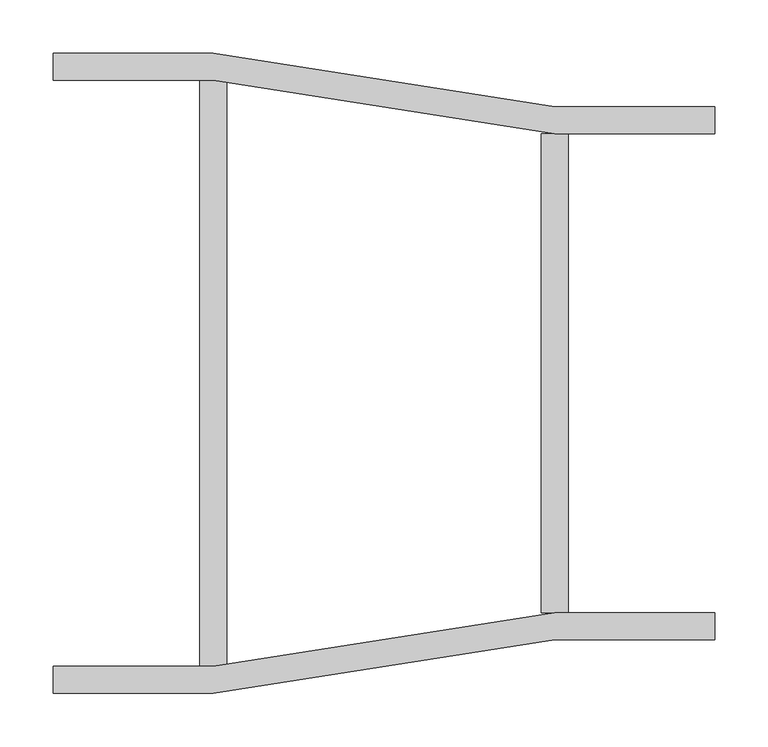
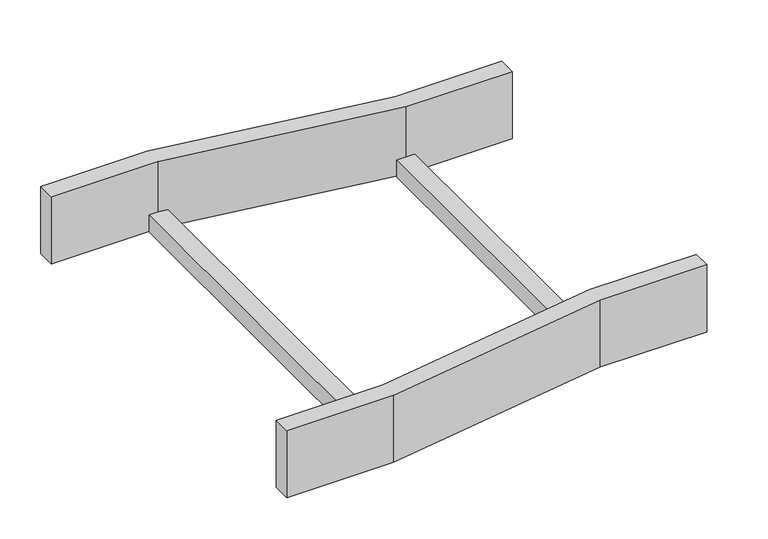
"""IFC4 building model written with IfcOpenShell, lengths in millimetres: cable carrier fitting geometry, BAKS_LD_RED_Straight reducer_RDSV : RDSVP_H100."""

import ifcopenshell
import ifcopenshell.guid

model = None  # the IFC model being written
_history = None  # IfcOwnerHistory: only IFC2X3 demands one
_inside = {}  # id of a spatial element -> (the spatial element, [elements in it])
_under = {}  # id of a project, library or spatial element -> (it, [spatial elements below it])
_declared = {}  # id of a project -> (the project, [libraries it declares])
_typed = {}  # id of a type object -> (the type object, [elements of that type])
_made_of = {}  # id of a material, layer set ... -> (it, [elements and type objects made of it])


def new_model(schema):
    """Start an empty IFC model of exactly this schema.

    Asked for "IFC4X3", IfcOpenShell would pick the latest addendum, in which some entities
    have other attributes; the version numbers below select the first issue.
    IFC2X3 requires an IfcOwnerHistory on every rooted entity: one is made here for all.
    """
    global model, _history
    if schema == "IFC4X3":
        model = ifcopenshell.file(schema_version=(4, 3, 0, 0))
    else:
        model = ifcopenshell.file(schema=schema)
    _inside.clear()
    _under.clear()
    _declared.clear()
    _typed.clear()
    _made_of.clear()
    _history = None
    if model.schema == "IFC2X3":
        org = make("IfcOrganization", Name="unknown")
        user = make(
            "IfcPersonAndOrganization",
            ThePerson=make("IfcPerson", FamilyName="unknown"),
            TheOrganization=org,
        )
        app = make(
            "IfcApplication",
            ApplicationDeveloper=org,
            Version="unknown",
            ApplicationFullName="unknown",
            ApplicationIdentifier="unknown",
        )
        _history = make(
            "IfcOwnerHistory",
            OwningUser=user,
            OwningApplication=app,
            ChangeAction="ADDED",
            CreationDate=0,
        )
    return model


def make(cls, **values):
    """One entity of the class cls with the attributes given. An attribute that is None is left unset."""
    return model.create_entity(
        cls, **{name: value for name, value in values.items() if value is not None}
    )


def rooted(cls, **values):
    """An entity with a GlobalId (a new one), such as an element, a storey or a relation."""
    return make(cls, GlobalId=ifcopenshell.guid.new(), OwnerHistory=_history, **values)


def si_unit(unit_type, name, prefix=None):
    """IfcSIUnit, for example si_unit("LENGTHUNIT", "METRE", prefix="MILLI")."""
    return make("IfcSIUnit", UnitType=unit_type, Prefix=prefix, Name=name)


def assignment(units):
    """IfcUnitAssignment: the units of a project."""
    return None if units is None else make("IfcUnitAssignment", Units=units)


def point(xyz):
    """IfcCartesianPoint."""
    return None if xyz is None else make("IfcCartesianPoint", Coordinates=xyz)


def direction(xyz):
    """IfcDirection."""
    return None if xyz is None else make("IfcDirection", DirectionRatios=xyz)


def frame(location, z_axis=None, x_axis=None):
    """IfcAxis2Placement3D, a coordinate frame: its origin and axes. An axis left out is left unset."""
    return make(
        "IfcAxis2Placement3D",
        Location=point(location),
        Axis=direction(z_axis),
        RefDirection=direction(x_axis),
    )


def origin():
    """The frame at (0, 0, 0) with its axes left unset."""
    return frame((0.0, 0.0, 0.0))


def place(relative_to, where):
    """IfcLocalPlacement: puts the frame where relative to a parent placement (None: the world)."""
    return make(
        "IfcLocalPlacement", PlacementRelTo=relative_to, RelativePlacement=where
    )


def context(
    kind, dimensions, precision=None, world=None, true_north=None, identifier=None
):
    """IfcGeometricRepresentationContext, for example the 3D "Model" context."""
    return make(
        "IfcGeometricRepresentationContext",
        ContextIdentifier=identifier,
        ContextType=kind,
        CoordinateSpaceDimension=dimensions,
        Precision=precision,
        WorldCoordinateSystem=world,
        TrueNorth=true_north,
    )


def project(units=None, contexts=None):
    """IfcProject with its units and contexts."""
    return rooted(
        "IfcProject",
        Name="project",
        RepresentationContexts=contexts,
        UnitsInContext=assignment(units),
    )


def spatial(cls, under=None, at=None, **own):
    """A site, building, storey or space (cls), placed at a placement, below another one or the project."""
    s = rooted(cls, ObjectPlacement=at, **own)
    if under is not None:
        _under.setdefault(under.id(), (under, []))[1].append(s)
    return s


def polyline(points):
    """IfcPolyline through the points."""
    return make("IfcPolyline", Points=[point(p) for p in points])


def outline(outer, holes=None, kind="AREA"):
    """IfcArbitraryClosedProfileDef: a profile drawn as a closed curve; with holes, ...WithVoids."""
    if holes is None:
        return make("IfcArbitraryClosedProfileDef", ProfileType=kind, OuterCurve=outer)
    return make(
        "IfcArbitraryProfileDefWithVoids",
        ProfileType=kind,
        OuterCurve=outer,
        InnerCurves=holes,
    )


def extrude(swept, where, along, depth):
    """IfcExtrudedAreaSolid: the profile swept, set in the frame where, extruded along a direction by depth."""
    return make(
        "IfcExtrudedAreaSolid",
        SweptArea=swept,
        Position=where,
        ExtrudedDirection=direction(along),
        Depth=depth,
    )


def shape(context_of_items, identifier, shape_type, items):
    """IfcShapeRepresentation: the items that make up one representation, for example the "Body"."""
    return make(
        "IfcShapeRepresentation",
        ContextOfItems=context_of_items,
        RepresentationIdentifier=identifier,
        RepresentationType=shape_type,
        Items=items,
    )


def source(mapping_origin, context_of_items, identifier, shape_type, items):
    """IfcRepresentationMap: a shape defined once, which mapped items show again and again."""
    return make(
        "IfcRepresentationMap",
        MappingOrigin=mapping_origin,
        MappedRepresentation=shape(context_of_items, identifier, shape_type, items),
    )


def transform(
    local_origin,
    x_axis=None,
    y_axis=None,
    z_axis=None,
    scale=None,
    scale2=None,
    scale3=None,
    uniform=True,
):
    """IfcCartesianTransformationOperator3D, or its non-uniform kind. x_axis, y_axis, z_axis: its Axis1, 2, 3."""
    if uniform:
        return make(
            "IfcCartesianTransformationOperator3D",
            Axis1=direction(x_axis),
            Axis2=direction(y_axis),
            LocalOrigin=point(local_origin),
            Scale=scale,
            Axis3=direction(z_axis),
        )
    return make(
        "IfcCartesianTransformationOperator3DnonUniform",
        Axis1=direction(x_axis),
        Axis2=direction(y_axis),
        LocalOrigin=point(local_origin),
        Scale=scale,
        Axis3=direction(z_axis),
        Scale2=scale2,
        Scale3=scale3,
    )


def mapped(mapping_source, mapping_target):
    """IfcMappedItem: shows the shape of a source again, moved by a transform."""
    return make(
        "IfcMappedItem", MappingSource=mapping_source, MappingTarget=mapping_target
    )


def made_of(thing, what):
    """Note that an element or type object is made of a material, layer set ...; save() writes the relation."""
    if what is not None:
        _made_of.setdefault(what.id(), (what, []))[1].append(thing)
    return thing


def element(
    cls,
    number,
    at=None,
    inside=None,
    cuts=None,
    type_object=None,
    material=None,
    context=None,
    identifier="Body",
    shape_type=None,
    held_by="IfcProductDefinitionShape",
    body=None,
    shapes=None,
    **own,
):
    """One element of the class cls, such as IfcWall. Its Tag is "e" and its number.

    at: its placement. inside: the storey or other place that contains it. cuts: it is an
    opening in that element (IfcRelVoidsElement). A single representation is given by context,
    identifier, shape_type and body (its items); several are given by shapes. held_by: the class
    of the entity that holds the representations. save() writes the other relations.
    """
    e = rooted(cls, Tag="e%d" % number, ObjectPlacement=at, **own)
    if body is not None:
        shapes = [shape(context, identifier, shape_type, body)]
    if shapes is not None:
        e.Representation = make(held_by, Representations=shapes)
    if inside is not None:
        _inside.setdefault(inside.id(), (inside, []))[1].append(e)
    if cuts is not None:
        rooted(
            "IfcRelVoidsElement", RelatingBuildingElement=cuts, RelatedOpeningElement=e
        )
    if type_object is not None:
        _typed.setdefault(type_object.id(), (type_object, []))[1].append(e)
    return made_of(e, material)


def aggregate(whole, parts):
    """IfcRelAggregates: a whole, such as a stair, and the parts it consists of."""
    return rooted("IfcRelAggregates", RelatingObject=whole, RelatedObjects=parts)


def save(model, path):
    """Write the relations noted so far, then the file.

    IfcRelAggregates (storeys below a building ...), IfcRelContainedInSpatialStructure (elements
    in a storey), IfcRelDefinesByType, IfcRelAssociatesMaterial and IfcRelDeclares: one each for
    every whole, place, type object, material and project.
    """
    for whole, parts in _under.values():
        aggregate(whole, parts)
    for where, things in _inside.values():
        rooted(
            "IfcRelContainedInSpatialStructure",
            RelatedElements=things,
            RelatingStructure=where,
        )
    for kind, things in _typed.values():
        rooted("IfcRelDefinesByType", RelatedObjects=things, RelatingType=kind)
    for what, things in _made_of.values():
        rooted("IfcRelAssociatesMaterial", RelatedObjects=things, RelatingMaterial=what)
    for by, libraries in _declared.values():
        rooted("IfcRelDeclares", RelatingContext=by, RelatedDefinitions=libraries)
    model.write(path)


def cable_carrier_fitting_d3670504(model_context):
    return source(origin(), model_context, "Body", "SweptSolid", [
        extrude(outline(polyline([(0.0, -300.0), (0.0, -274.6), (150.0, -274.6), (470.0, -224.6), (620.0, -224.6), (620.0, -250.0), (470.0, -250.0), (150.0, -300.0), (0.0, -300.0)])), frame((0.0, 0.0, -50.0), z_axis=(0.0, 0.0, 1.0), x_axis=(1.0, 0.0, 0.0)), (0.0, 0.0, 1.0), 100.0),
        extrude(outline(polyline([(0.0, 274.6), (0.0, 300.0), (150.0, 300.0), (470.0, 250.0), (620.0, 250.0), (620.0, 224.6), (470.0, 224.6), (150.0, 274.6), (0.0, 274.6)])), frame((0.0, 0.0, -50.0), z_axis=(0.0, 0.0, 1.0), x_axis=(1.0, 0.0, 0.0)), (0.0, 0.0, 1.0), 100.0),
        extrude(outline(polyline([(457.3, 224.6), (482.7, 224.6), (482.7, -224.6), (457.3, -224.6), (457.3, 224.6)])), frame((0.0, 0.0, -50.0), z_axis=(0.0, 0.0, 1.0), x_axis=(1.0, 0.0, 0.0)), (0.0, 0.0, 1.0), 25.4),
        extrude(outline(polyline([(137.3, 274.6), (162.7, 274.6), (162.7, -274.6), (137.3, -274.6), (137.3, 274.6)])), frame((0.0, 0.0, -50.0), z_axis=(0.0, 0.0, 1.0), x_axis=(1.0, 0.0, 0.0)), (0.0, 0.0, 1.0), 25.4),
    ])


if __name__ == "__main__":
    model = new_model("IFC4")
    model_context = context("Model", 3, world=origin())
    ifc_project = project(units=[si_unit("LENGTHUNIT", "METRE", prefix="MILLI")], contexts=[model_context])
    site = spatial("IfcSite", under=ifc_project)
    building = spatial("IfcBuilding", under=site)
    placement = place(None, origin())
    cable_carrier_fitting_shape = cable_carrier_fitting_d3670504(model_context)
    element("IfcCableCarrierFitting", 1, ObjectType="BAKS_LD_RED_Straight reducer_RDSV : RDSVP_H100", at=placement, inside=building, context=model_context, shape_type="MappedRepresentation", body=[
        mapped(cable_carrier_fitting_shape, transform((0.0, 0.0, 0.0), x_axis=(1.0, 0.0, 0.0), y_axis=(0.0, 1.0, 0.0), z_axis=(0.0, 0.0, 1.0))),
    ])
    save(model, "model.ifc")
